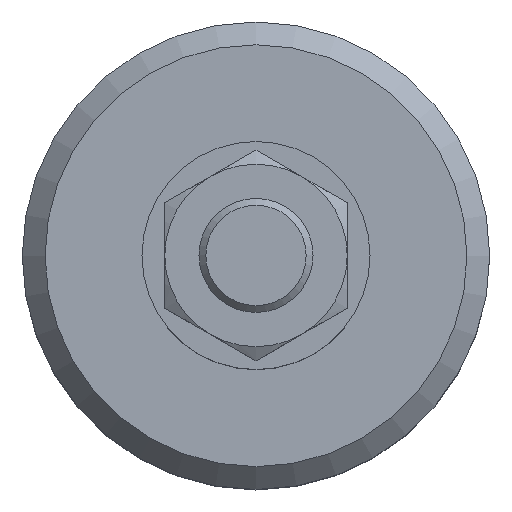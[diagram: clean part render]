
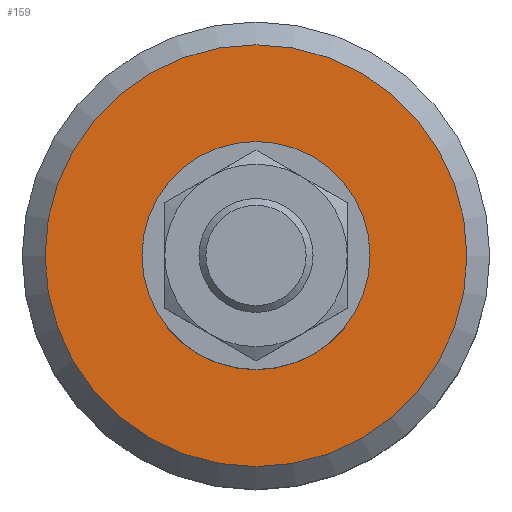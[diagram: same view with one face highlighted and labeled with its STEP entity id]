
A CAD part, top view. The second image highlights one B-rep face of the part: STEP entity #159.
In plain terms, the highlighted planar face has unit normal (0, 0, 1).
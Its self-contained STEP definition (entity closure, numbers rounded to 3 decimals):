
#128=CARTESIAN_POINT('',(0.,-9.25,7.15));
#129=VERTEX_POINT('',#128);
#130=CARTESIAN_POINT('',(0.0,0.0,7.15));
#131=DIRECTION('',(0.0,0.0,-1.0));
#132=DIRECTION('',(0.0,1.0,0.0));
#133=AXIS2_PLACEMENT_3D('',#130,#131,#132);
#134=CIRCLE('',#133,9.25);
#135=EDGE_CURVE('',#129,#129,#134,.T.);
#140=CARTESIAN_POINT('',(0.0,-2.5,7.15));
#141=DIRECTION('',(0.0,0.0,1.0));
#142=DIRECTION('',(1.0,0.0,0.0));
#143=AXIS2_PLACEMENT_3D('',#140,#141,#142);
#144=PLANE('',#143);
#145=ORIENTED_EDGE('',*,*,#135,.F.);
#146=EDGE_LOOP('',(#145));
#147=FACE_OUTER_BOUND('',#146,.T.);
#148=CARTESIAN_POINT('',(0.0,-5.0,7.15));
#149=VERTEX_POINT('',#148);
#150=CARTESIAN_POINT('',(0.0,0.0,7.15));
#151=DIRECTION('',(0.0,0.0,1.0));
#152=DIRECTION('',(0.0,-1.0,0.0));
#153=AXIS2_PLACEMENT_3D('',#150,#151,#152);
#154=CIRCLE('',#153,5.0);
#155=EDGE_CURVE('',#149,#149,#154,.T.);
#156=ORIENTED_EDGE('',*,*,#155,.F.);
#157=EDGE_LOOP('',(#156));
#158=FACE_BOUND('',#157,.T.);
#159=ADVANCED_FACE('',(#147,#158),#144,.T.);
